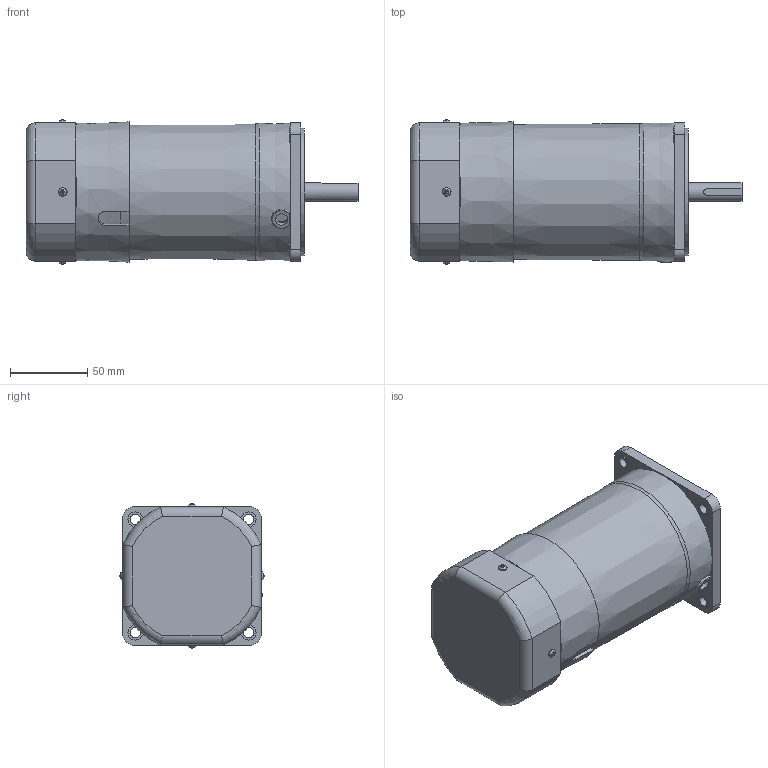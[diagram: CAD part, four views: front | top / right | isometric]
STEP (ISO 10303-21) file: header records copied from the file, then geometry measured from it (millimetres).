
FILE_DESCRIPTION((''),'2;1');
FILE_NAME('D:\김성묵\업무폴더\개발 파일\프로젝트 개발 AB등급\AC표준형 개발자료\90각 이하 표준형 개발\도면작성 자료\3D 도면\홈페이지용 3D 파일\90W MOTOR\BLACK TYPE\S9I90K-E.stp','2015-03-26T14:10:23',('smkim'),(''),'Autodesk Inventor 2012','Autodesk Inventor 2012','');
FILE_SCHEMA(('AUTOMOTIVE_DESIGN { 1 0 10303 214 1 1 1 1 }'));
Length unit declared in the file: millimetre
Products named in the file (7): S9I90K-E; S9I90GㅁCE; 6_CORD BUSH; FAN COVER; 552300620; S9I60K; 60W 전자BK COVER
Assembly tree (9 placements, depth 2):
  S9I90K-E
    S9I90GㅁCE
    6_CORD BUSH
    FAN COVER
    552300620  x4
    S9I60K
    60W 전자BK COVER
Bounding box: 215.3 x 93.49 x 93.49 mm (x, y, z)
Volume: 1266146.4 mm3; surface area: 121341.9 mm2
Topology: 9 solids, 10 shells, 245 faces, 573 edges, 372 vertices
Faces by surface type: plane 151, cylinder 62, cone 14, torus 14, bspline 4
Full cylindrical faces by diameter (mm): 3 x8, 3.5 x4, 5.6 x4, 6.5 x4, 8 x1, 9.5 x4, 10 x1, 12 x1, 28 x1, 34 x1, 40 x1, 60 x1, 66 x1, 80 x1, 83 x1, 86 x2, 86.3 x1
Entity records: 5529 total; most frequent: CARTESIAN_POINT 1317, DIRECTION 853, ORIENTED_EDGE 738, EDGE_CURVE 369, AXIS2_PLACEMENT_3D 334, VERTEX_POINT 268, EDGE_LOOP 265, VECTOR 185
